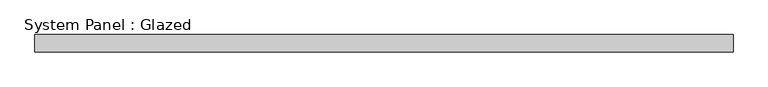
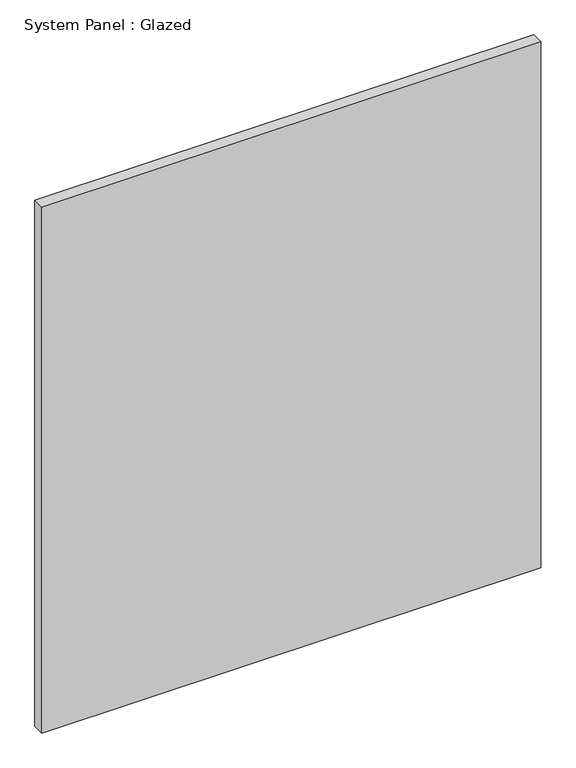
"""IFC4 building model written with IfcOpenShell, lengths in millimetres: plate geometry, System Panel : Glazed."""

from ifc_helpers import new_model, si_unit, origin, origin_with_axes, place, context, project, spatial, polyline, outline, extrude, source, transform, mapped, element, save


def system_panel_glazed_b0e4ebfd(model_context):
    return source(origin(), model_context, "Body", "SweptSolid", [
        extrude(outline(polyline([(518.432143, -44.45), (-518.432143, -44.45), (-518.432143, -19.05), (518.432143, -19.05), (518.432143, -44.45)])), origin_with_axes(), (0.0, 0.0, 1.0), 1155.7),
    ])


if __name__ == "__main__":
    model = new_model("IFC4")
    model_context = context("Model", 3, world=origin())
    ifc_project = project(units=[si_unit("LENGTHUNIT", "METRE", prefix="MILLI")], contexts=[model_context])
    site = spatial("IfcSite", under=ifc_project)
    building = spatial("IfcBuilding", under=site)
    placement = place(None, origin())
    system_panel_glazed_shape = system_panel_glazed_b0e4ebfd(model_context)
    element("IfcPlate", 1, ObjectType="System Panel : Glazed", at=placement, inside=building, context=model_context, shape_type="MappedRepresentation", body=[
        mapped(system_panel_glazed_shape, transform((0.0, 0.0, 0.0), x_axis=(1.0, 0.0, 0.0), y_axis=(0.0, 1.0, 0.0), z_axis=(0.0, 0.0, 1.0))),
    ])
    save(model, "model.ifc")
